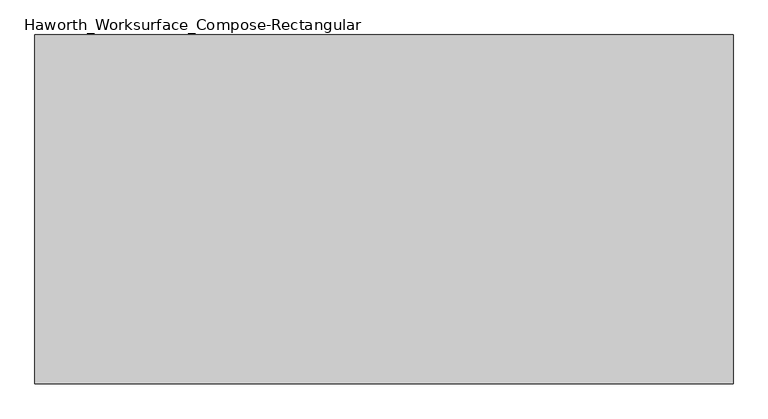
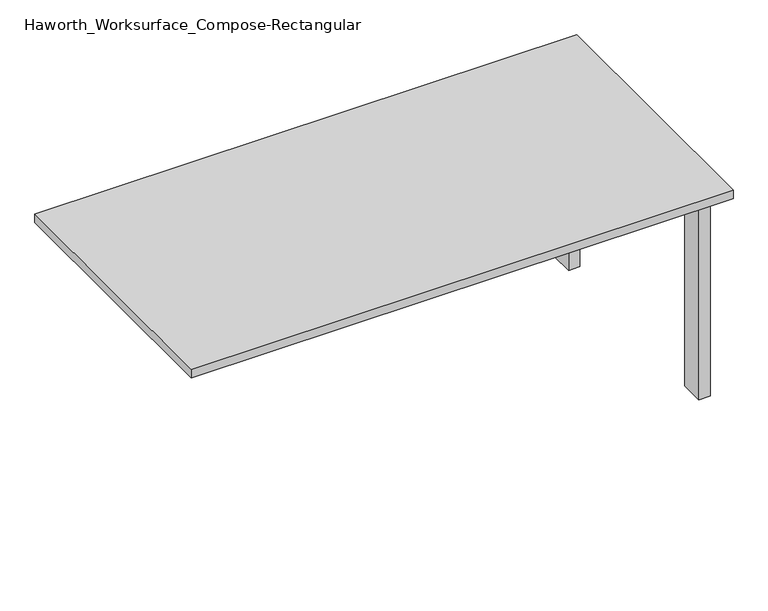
"""IFC4 building model written with IfcOpenShell, lengths in millimetres: furniture geometry, Haworth_Worksurface_Compose-Rectangular : 36'' x 72''."""

from ifc_helpers import new_model, si_unit, frame, origin, origin_with_axes, place, context, project, spatial, polyline, outline, extrude, source, transform, mapped, element, save


def haworth_worksurface_compose_rectangular_8010dbb9(model_context):
    return source(origin(), model_context, "Body", "SweptSolid", [
        extrude(outline(polyline([(819.15, -422.275), (819.15, -339.725), (857.25, -339.725), (857.25, -422.275), (819.15, -422.275)])), origin_with_axes(), (0.0, 0.0, 1.0), 706.4375),
        extrude(outline(polyline([(857.25, 339.725), (819.15, 339.725), (819.15, 422.275), (857.25, 422.275), (857.25, 339.725)])), origin_with_axes(), (0.0, 0.0, 1.0), 706.4375),
        extrude(outline(polyline([(914.4, 457.2), (914.4, -457.2), (-914.4, -457.2), (-914.4, 457.2), (914.4, 457.2)])), frame((0.0, 0.0, 706.4375), z_axis=(0.0, 0.0, 1.0), x_axis=(1.0, 0.0, 0.0)), (0.0, 0.0, 1.0), 30.1625),
    ])


if __name__ == "__main__":
    model = new_model("IFC4")
    model_context = context("Model", 3, world=origin())
    ifc_project = project(units=[si_unit("LENGTHUNIT", "METRE", prefix="MILLI")], contexts=[model_context])
    site = spatial("IfcSite", under=ifc_project)
    building = spatial("IfcBuilding", under=site)
    placement = place(None, origin())
    haworth_worksurface_compose_rectangular_shape = haworth_worksurface_compose_rectangular_8010dbb9(model_context)
    element("IfcFurniture", 1, ObjectType="Haworth_Worksurface_Compose-Rectangular : 36'' x 72''", at=placement, inside=building, context=model_context, shape_type="MappedRepresentation", body=[
        mapped(haworth_worksurface_compose_rectangular_shape, transform((0.0, 0.0, 0.0), x_axis=(1.0, 0.0, 0.0), y_axis=(0.0, 1.0, 0.0), z_axis=(0.0, 0.0, 1.0))),
    ])
    save(model, "model.ifc")
